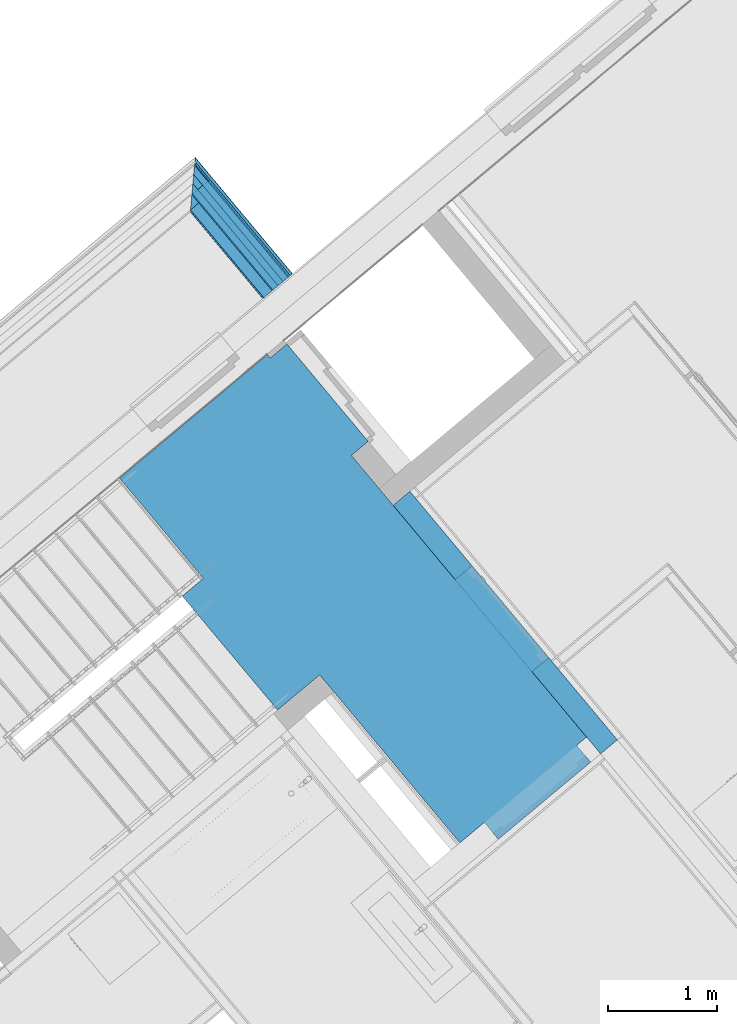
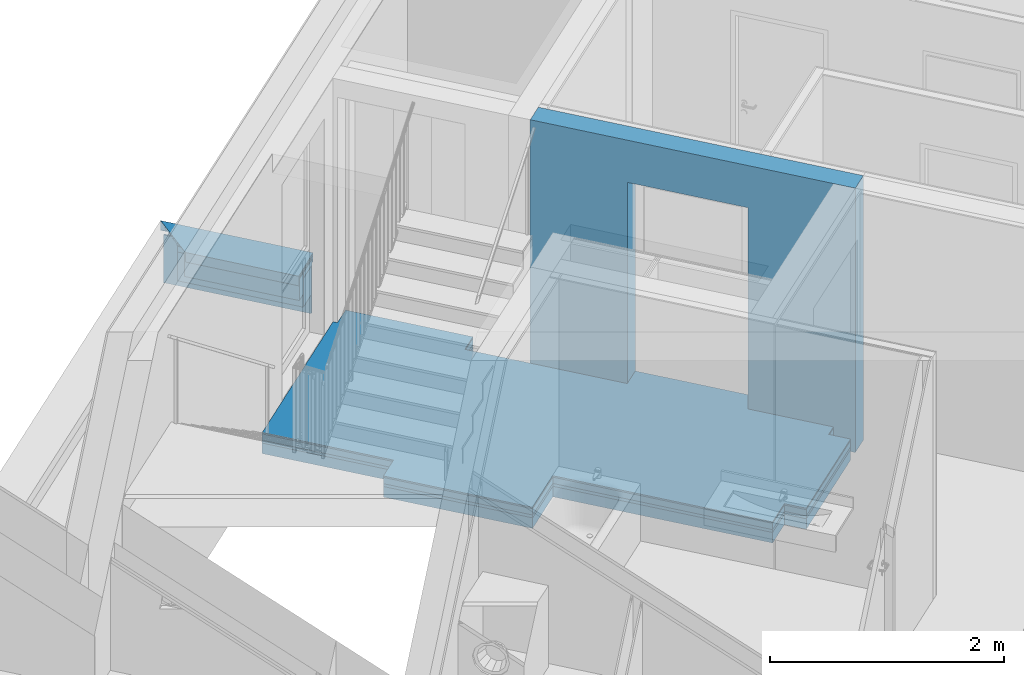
# One storey, part 32 of 50: 13 building element parts, 1 opening, 3 elements without a shape of their own.
"""IFC4 building model written with IfcOpenShell, lengths in metres."""

import ifcopenshell
import ifcopenshell.guid

model = None  # the IFC model being written
_history = None  # IfcOwnerHistory: only IFC2X3 demands one
_inside = {}  # id of a spatial element -> (the spatial element, [elements in it])
_under = {}  # id of a project, library or spatial element -> (it, [spatial elements below it])
_declared = {}  # id of a project -> (the project, [libraries it declares])
_typed = {}  # id of a type object -> (the type object, [elements of that type])
_made_of = {}  # id of a material, layer set ... -> (it, [elements and type objects made of it])


def new_model(schema):
    """Start an empty IFC model of exactly this schema.

    Asked for "IFC4X3", IfcOpenShell would pick the latest addendum, in which some entities
    have other attributes; the version numbers below select the first issue.
    IFC2X3 requires an IfcOwnerHistory on every rooted entity: one is made here for all.
    """
    global model, _history
    if schema == "IFC4X3":
        model = ifcopenshell.file(schema_version=(4, 3, 0, 0))
    else:
        model = ifcopenshell.file(schema=schema)
    _inside.clear()
    _under.clear()
    _declared.clear()
    _typed.clear()
    _made_of.clear()
    _history = None
    if model.schema == "IFC2X3":
        org = make("IfcOrganization", Name="unknown")
        user = make(
            "IfcPersonAndOrganization",
            ThePerson=make("IfcPerson", FamilyName="unknown"),
            TheOrganization=org,
        )
        app = make(
            "IfcApplication",
            ApplicationDeveloper=org,
            Version="unknown",
            ApplicationFullName="unknown",
            ApplicationIdentifier="unknown",
        )
        _history = make(
            "IfcOwnerHistory",
            OwningUser=user,
            OwningApplication=app,
            ChangeAction="ADDED",
            CreationDate=0,
        )
    return model


def make(cls, **values):
    """One entity of the class cls with the attributes given. An attribute that is None is left unset."""
    return model.create_entity(
        cls, **{name: value for name, value in values.items() if value is not None}
    )


def entity(cls, *values):
    """Any entity or typed value of the class cls, its attributes in the order of the schema. None: left unset."""
    e = model.create_entity(cls)
    for i, value in enumerate(values):
        if value is not None:
            e[i] = value
    return e


def rooted(cls, **values):
    """An entity with a GlobalId (a new one), such as an element, a storey or a relation."""
    return make(cls, GlobalId=ifcopenshell.guid.new(), OwnerHistory=_history, **values)


def si_unit(unit_type, name, prefix=None):
    """IfcSIUnit, for example si_unit("LENGTHUNIT", "METRE", prefix="MILLI")."""
    return make("IfcSIUnit", UnitType=unit_type, Prefix=prefix, Name=name)


def converted_unit(unit_type, name, factor, base, dimensions=None, offset=None):
    """IfcConversionBasedUnit, such as the inch: factor (a typed value) times the base unit."""
    return make(
        "IfcConversionBasedUnit"
        if offset is None
        else "IfcConversionBasedUnitWithOffset",
        ConversionOffset=offset,
        Dimensions=None
        if dimensions is None
        else entity("IfcDimensionalExponents", *dimensions),
        UnitType=unit_type,
        Name=name,
        ConversionFactor=make(
            "IfcMeasureWithUnit", ValueComponent=factor, UnitComponent=base
        ),
    )


def derived_unit(unit_type, elements):
    """IfcDerivedUnit: a product of units, each with its exponent."""
    return make(
        "IfcDerivedUnit",
        Elements=[
            make("IfcDerivedUnitElement", Unit=unit, Exponent=power)
            for unit, power in elements
        ],
        UnitType=unit_type,
    )


def assignment(units):
    """IfcUnitAssignment: the units of a project."""
    return None if units is None else make("IfcUnitAssignment", Units=units)


def point(xyz):
    """IfcCartesianPoint."""
    return None if xyz is None else make("IfcCartesianPoint", Coordinates=xyz)


def direction(xyz):
    """IfcDirection."""
    return None if xyz is None else make("IfcDirection", DirectionRatios=xyz)


def frame(location, z_axis=None, x_axis=None):
    """IfcAxis2Placement3D, a coordinate frame: its origin and axes. An axis left out is left unset."""
    return make(
        "IfcAxis2Placement3D",
        Location=point(location),
        Axis=direction(z_axis),
        RefDirection=direction(x_axis),
    )


def origin_with_axes():
    """The frame at (0, 0, 0) with the z axis (0, 0, 1) and the x axis (1, 0, 0) written out."""
    return frame((0.0, 0.0, 0.0), z_axis=(0.0, 0.0, 1.0), x_axis=(1.0, 0.0, 0.0))


def place(relative_to, where):
    """IfcLocalPlacement: puts the frame where relative to a parent placement (None: the world)."""
    return make(
        "IfcLocalPlacement", PlacementRelTo=relative_to, RelativePlacement=where
    )


def context(
    kind, dimensions, precision=None, world=None, true_north=None, identifier=None
):
    """IfcGeometricRepresentationContext, for example the 3D "Model" context."""
    return make(
        "IfcGeometricRepresentationContext",
        ContextIdentifier=identifier,
        ContextType=kind,
        CoordinateSpaceDimension=dimensions,
        Precision=precision,
        WorldCoordinateSystem=world,
        TrueNorth=true_north,
    )


def subcontext(parent, identifier, kind, view, scale=None):
    """IfcGeometricRepresentationSubContext, for example "Body" below "Model"."""
    return make(
        "IfcGeometricRepresentationSubContext",
        ContextIdentifier=identifier,
        ContextType=kind,
        ParentContext=parent,
        TargetScale=scale,
        TargetView=view,
    )


def project(units=None, contexts=None):
    """IfcProject with its units and contexts."""
    return rooted(
        "IfcProject",
        Name="project",
        RepresentationContexts=contexts,
        UnitsInContext=assignment(units),
    )


def spatial(cls, under=None, at=None, **own):
    """A site, building, storey or space (cls), placed at a placement, below another one or the project."""
    s = rooted(cls, ObjectPlacement=at, **own)
    if under is not None:
        _under.setdefault(under.id(), (under, []))[1].append(s)
    return s


def point_list(points):
    """IfcCartesianPointList2D or 3D."""
    cls = (
        "IfcCartesianPointList2D" if len(points[0]) == 2 else "IfcCartesianPointList3D"
    )
    return make(cls, CoordList=points)


def polygons(points, faces, closed=None, point_numbers=None):
    """IfcPolygonalFaceSet: a face is its outer loop, then its inner loops; points numbered from 1."""
    made = []
    for loops in faces:
        if len(loops) == 1:
            made.append(make("IfcIndexedPolygonalFace", CoordIndex=loops[0]))
        else:
            made.append(
                make(
                    "IfcIndexedPolygonalFaceWithVoids",
                    CoordIndex=loops[0],
                    InnerCoordIndices=loops[1:],
                )
            )
    return make(
        "IfcPolygonalFaceSet",
        Coordinates=point_list(points),
        Closed=closed,
        Faces=made,
        PnIndex=point_numbers,
    )


def shape(context_of_items, identifier, shape_type, items):
    """IfcShapeRepresentation: the items that make up one representation, for example the "Body"."""
    return make(
        "IfcShapeRepresentation",
        ContextOfItems=context_of_items,
        RepresentationIdentifier=identifier,
        RepresentationType=shape_type,
        Items=items,
    )


def material(Name=None, Category=None):
    """IfcMaterial."""
    return make("IfcMaterial", Name=Name, Category=Category)


def made_of(thing, what):
    """Note that an element or type object is made of a material, layer set ...; save() writes the relation."""
    if what is not None:
        _made_of.setdefault(what.id(), (what, []))[1].append(thing)
    return thing


def type_object(cls, material=None, **own):
    """A type object (cls), such as IfcWallType, which elements share."""
    return made_of(rooted(cls, **own), material)


def element(
    cls,
    number,
    at=None,
    inside=None,
    cuts=None,
    type_object=None,
    material=None,
    context=None,
    identifier="Body",
    shape_type=None,
    held_by="IfcProductDefinitionShape",
    body=None,
    shapes=None,
    **own,
):
    """One element of the class cls, such as IfcWall. Its Tag is "e" and its number.

    at: its placement. inside: the storey or other place that contains it. cuts: it is an
    opening in that element (IfcRelVoidsElement). A single representation is given by context,
    identifier, shape_type and body (its items); several are given by shapes. held_by: the class
    of the entity that holds the representations. save() writes the other relations.
    """
    e = rooted(cls, Tag="e%d" % number, ObjectPlacement=at, **own)
    if body is not None:
        shapes = [shape(context, identifier, shape_type, body)]
    if shapes is not None:
        e.Representation = make(held_by, Representations=shapes)
    if inside is not None:
        _inside.setdefault(inside.id(), (inside, []))[1].append(e)
    if cuts is not None:
        rooted(
            "IfcRelVoidsElement", RelatingBuildingElement=cuts, RelatedOpeningElement=e
        )
    if type_object is not None:
        _typed.setdefault(type_object.id(), (type_object, []))[1].append(e)
    return made_of(e, material)


def aggregate(whole, parts):
    """IfcRelAggregates: a whole, such as a stair, and the parts it consists of."""
    return rooted("IfcRelAggregates", RelatingObject=whole, RelatedObjects=parts)


def save(model, path):
    """Write the relations noted so far, then the file.

    IfcRelAggregates (storeys below a building ...), IfcRelContainedInSpatialStructure (elements
    in a storey), IfcRelDefinesByType, IfcRelAssociatesMaterial and IfcRelDeclares: one each for
    every whole, place, type object, material and project.
    """
    for whole, parts in _under.values():
        aggregate(whole, parts)
    for where, things in _inside.values():
        rooted(
            "IfcRelContainedInSpatialStructure",
            RelatedElements=things,
            RelatingStructure=where,
        )
    for kind, things in _typed.values():
        rooted("IfcRelDefinesByType", RelatedObjects=things, RelatingType=kind)
    for what, things in _made_of.values():
        rooted("IfcRelAssociatesMaterial", RelatedObjects=things, RelatingMaterial=what)
    for by, libraries in _declared.values():
        rooted("IfcRelDeclares", RelatingContext=by, RelatedDefinitions=libraries)
    model.write(path)


model = new_model("IFC4")

# Units and contexts
model_context = context("Model", 3, precision=1e-05, world=origin_with_axes(), true_north=direction((0.0, 1.0)))
body_context = subcontext(model_context, "Body", "Model", "MODEL_VIEW")
ifc_project = project(units=[si_unit("LENGTHUNIT", "METRE"), si_unit("AREAUNIT", "SQUARE_METRE"), si_unit("VOLUMEUNIT", "CUBIC_METRE"), converted_unit("PLANEANGLEUNIT", "DEGREE", entity("IfcPlaneAngleMeasure", 0.0174532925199), si_unit("PLANEANGLEUNIT", "RADIAN"), dimensions=[0, 0, 0, 0, 0, 0, 0]), converted_unit("TIMEUNIT", "Year", entity("IfcTimeMeasure", 31556926.0), si_unit("TIMEUNIT", "SECOND"), dimensions=[0, 0, 1, 0, 0, 0, 0]), si_unit("MASSUNIT", "GRAM", prefix="KILO"), si_unit("THERMODYNAMICTEMPERATUREUNIT", "DEGREE_CELSIUS"), si_unit("LUMINOUSINTENSITYUNIT", "LUMEN"), si_unit("ENERGYUNIT", "JOULE", prefix="MEGA"), derived_unit("THERMALCONDUCTANCEUNIT", [(si_unit("POWERUNIT", "WATT"), 1), (si_unit("LENGTHUNIT", "METRE"), -1), (si_unit("THERMODYNAMICTEMPERATUREUNIT", "KELVIN"), -1)]), derived_unit("SPECIFICHEATCAPACITYUNIT", [(si_unit("ENERGYUNIT", "JOULE"), 1), (si_unit("MASSUNIT", "GRAM", prefix="KILO"), -1), (si_unit("THERMODYNAMICTEMPERATUREUNIT", "KELVIN"), -1)]), derived_unit("MASSDENSITYUNIT", [(si_unit("MASSUNIT", "GRAM", prefix="KILO"), 1), (si_unit("VOLUMEUNIT", "CUBIC_METRE"), -1)])], contexts=[model_context])

# Site, building, storey
site_placement = place(None, frame((-0.00153261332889, -0.00661245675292, 0.0), z_axis=(0.0, 0.0, 1.0), x_axis=(1.0, 0.0, 0.0)))
site = spatial("IfcSite", under=ifc_project, at=site_placement, Name="Site", CompositionType="ELEMENT")
building_placement = place(site_placement, origin_with_axes())
building = spatial("IfcBuilding", under=site, at=building_placement, Name="Building", CompositionType="ELEMENT")
storey_placement = place(building_placement, frame((0.0, 0.0, 2.74), z_axis=(0.0, 0.0, 1.0), x_axis=(1.0, 0.0, 0.0)))
storey = spatial("IfcBuildingStorey", under=building, at=storey_placement, Name="OG1", CompositionType="ELEMENT", Elevation=2.74)

# Wall, opening, building element part
wall_type_1 = type_object("IfcWallType", Name="LB 6,5 cm einfach Vorsatzschale + STB 265", PredefinedType="NOTDEFINED")
wall_1_placement = place(storey_placement, frame((3.23525110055, 22.2301615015, 0.0), z_axis=(0.0, 0.0, 1.0), x_axis=(-0.640845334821, 0.767670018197, 0.0)))
wall_1 = element("IfcWall", 1, at=wall_1_placement, inside=storey, type_object=wall_type_1, Name="Wand-003", PredefinedType="NOTDEFINED")
opening_placement = place(wall_1_placement, frame((1.52746867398, 0.0, 0.22), z_axis=(0.0, 0.0, 1.0), x_axis=(1.0, 0.0, 0.0)))
element("IfcOpeningElement", 2, at=opening_placement, cuts=wall_1, Name="Tür-001", context=body_context, identifier="Reference", shape_type="Tessellation", body=[
    polygons([(-0.55, -0.125, -0.22), (-0.55, -0.125, 2.1), (-0.55, 1.45785876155, 2.1), (-0.55, 1.45785876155, -0.22), (-0.55, -1.72285876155, -0.22), (-0.55, -1.72285876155, 2.1), (0.55, -0.125, 2.1), (0.55, 1.45785876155, 2.1), (0.55, 1.45785876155, -0.22), (0.55, -0.125, -0.22), (0.55, -1.72285876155, -0.22), (0.55, -1.72285876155, 2.1)], [[[1, 2, 3, 4]], [[2, 1, 5, 6]], [[2, 7, 8, 3]], [[8, 9, 4, 3]], [[10, 1, 4, 9]], [[1, 10, 11, 5]], [[6, 5, 11, 12]], [[7, 2, 6, 12]], [[7, 10, 9, 8]], [[10, 7, 12, 11]]], closed=True),
])
ifc_material_1 = material(Name="Stahlbeton Wand")
building_element_part_1_placement = place(wall_1_placement, origin_with_axes())
building_element_part_1 = element("IfcBuildingElementPart", 3, at=building_element_part_1_placement, material=ifc_material_1, Name="Stahlbeton Wand", PredefinedType="NOTDEFINED", context=body_context, shape_type="Tessellation", body=[
    polygons([(2.07746867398, -0.2, 2.32), (2.07746867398, -0.199999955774, 0.22), (2.07746867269, -0.199999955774, 0.0), (2.9613493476, -0.2, 0.0), (2.9613493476, -0.2, 2.76), (0.0, -0.2, 2.76), (0.0, -0.2, 0.0), (0.977468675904, -0.199999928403, 0.0), (0.977468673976, -0.199999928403, 0.22), (0.977468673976, -0.2, 2.32), (2.07746867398, -0.125, 2.32), (2.07746867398, -0.125, 0.22), (2.07746867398, 0.0, 0.22), (2.07746867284, 0.0, 0.0), (2.9613493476, 0.0, 0.0), (2.9613493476, 0.0, 2.76), (0.0, 0.0, 2.76), (0.0, 0.0, 0.0), (0.977468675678, 0.0, 0.0), (0.977468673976, -0.125, 0.22), (0.977468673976, 0.0, 0.22), (0.977468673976, -0.125, 2.32), (2.07746867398, 0.0, 2.32), (0.977468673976, 0.0, 2.32)], [[[1, 2, 3, 4, 5, 6, 7, 8, 9, 10]], [[2, 1, 11, 12]], [[2, 12, 13, 14, 3]], [[15, 4, 3, 14]], [[4, 15, 16, 5]], [[16, 17, 6, 5]], [[17, 18, 7, 6]], [[7, 18, 19, 8]], [[20, 9, 8, 19, 21]], [[10, 9, 20, 22]], [[1, 10, 22, 11]], [[12, 11, 23, 13]], [[14, 13, 23, 24, 21, 19, 18, 17, 16, 15]], [[22, 20, 21, 24]], [[11, 22, 24, 23]]], closed=True),
])
aggregate(wall_1, [building_element_part_1])

# Covering, building element parts
covering_type = type_object("IfcCoveringType", Name="DE 01 Decke Wohnung/Wohnung Fließen 220", PredefinedType="NOTDEFINED")
covering_placement = place(storey_placement, frame((0.186433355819, 25.8823468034, 0.22), z_axis=(0.0, 0.0, 1.0), x_axis=(1.0, 0.0, 0.0)))
covering = element("IfcCovering", 4, at=covering_placement, inside=storey, type_object=covering_type, Name="Decke-001", PredefinedType="NOTDEFINED")
ifc_material_2 = material(Name="Fliesen")
building_element_part_2_placement = place(covering_placement, origin_with_axes())
building_element_part_2 = element("IfcBuildingElementPart", 5, at=building_element_part_2_placement, material=ifc_material_2, Name="Fliesen", PredefinedType="NOTDEFINED", context=body_context, shape_type="Tessellation", body=[
    polygons([(0.0938673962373, -3.25162003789, -0.015), (0.286905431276, -3.09031781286, -0.015), (0.478971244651, -2.92982796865, -0.015), (0.478971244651, -2.92982796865, 0.0), (0.286905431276, -3.09031781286, 0.0), (0.0938673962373, -3.25162003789, 0.0), (-0.778128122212, -2.208157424, -0.015), (-0.584981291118, -2.04678108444, -0.015), (-1.35152231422, -1.12932957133, -0.015), (0.0, 0.0, -0.015), (0.0263065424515, -0.0315126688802, -0.015), (0.179840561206, 0.0966564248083, -0.015), (0.923221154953, -0.793840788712, -0.015), (0.769687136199, -0.922009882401, -0.015), (1.0228817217, -1.22531219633, -0.015), (1.15105080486, -1.37884621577, -0.015), (1.71748165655, -2.05737494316, -0.015), (1.87101560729, -1.92920584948, -0.015), (2.57594545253, -2.77364288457, -0.015), (2.42241150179, -2.90181197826, -0.015), (2.92064867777, -3.49865129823, -0.015), (2.82949713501, -3.57474389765, -0.015), (2.9576662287, -3.72827791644, -0.015), (2.11322919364, -4.43320776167, -0.015), (1.98506009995, -4.27967374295, -0.015), (1.76163589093, -4.4661866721, -0.015), (0.607213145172, -3.08330113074, -0.015), (0.607213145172, -3.08330113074, 0.0), (-0.778128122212, -2.208157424, 0.0), (1.76163589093, -4.4661866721, 0.0), (1.98506009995, -4.27967374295, 0.0), (2.11322919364, -4.43320776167, 0.0), (2.9576662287, -3.72827791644, 0.0), (2.82949713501, -3.57474389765, 0.0), (2.92064867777, -3.49865129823, 0.0), (2.42241150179, -2.90181197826, 0.0), (2.57594545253, -2.77364288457, 0.0), (1.87101560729, -1.92920584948, 0.0), (1.71748165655, -2.05737494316, 0.0), (1.15105080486, -1.37884621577, 0.0), (1.0228817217, -1.22531219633, 0.0), (0.769687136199, -0.922009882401, 0.0), (0.923221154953, -0.793840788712, 0.0), (0.179840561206, 0.0966564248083, 0.0), (0.0263065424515, -0.0315126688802, 0.0), (0.0, 0.0, 0.0), (-1.35152231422, -1.12932957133, 0.0), (-0.584981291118, -2.04678108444, 0.0)], [[[1, 2, 3, 4, 5, 6]], [[2, 1, 7, 8, 9, 10, 11, 12, 13, 14, 15, 16, 17, 18, 19, 20, 21, 22, 23, 24, 25, 26, 27, 3]], [[4, 3, 27, 28]], [[29, 6, 5, 4, 28, 30, 31, 32, 33, 34, 35, 36, 37, 38, 39, 40, 41, 42, 43, 44, 45, 46, 47, 48]], [[1, 6, 29, 7]], [[8, 7, 29, 48]], [[9, 8, 48, 47]], [[9, 47, 46, 10]], [[45, 11, 10, 46]], [[11, 45, 44, 12]], [[12, 44, 43, 13]], [[42, 14, 13, 43]], [[15, 14, 42, 41]], [[16, 15, 41, 40]], [[39, 17, 16, 40]], [[17, 39, 38, 18]], [[18, 38, 37, 19]], [[36, 20, 19, 37]], [[21, 20, 36, 35]], [[34, 22, 21, 35]], [[23, 22, 34, 33]], [[32, 24, 23, 33]], [[24, 32, 31, 25]], [[30, 26, 25, 31]], [[27, 26, 30, 28]]], closed=True),
])
ifc_material_3 = material(Name="Estrich")
building_element_part_3_placement = place(covering_placement, origin_with_axes())
building_element_part_3 = element("IfcBuildingElementPart", 6, at=building_element_part_3_placement, material=ifc_material_3, Name="Estrich", PredefinedType="NOTDEFINED", context=body_context, shape_type="Tessellation", body=[
    polygons([(0.0938673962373, -3.25162003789, -0.08), (0.286905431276, -3.09031781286, -0.08), (0.478971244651, -2.92982796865, -0.08), (0.478971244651, -2.92982796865, -0.015), (0.286905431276, -3.09031781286, -0.015), (0.0938673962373, -3.25162003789, -0.015), (-0.778128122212, -2.208157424, -0.08), (-0.584981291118, -2.04678108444, -0.08), (-1.35152231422, -1.12932957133, -0.08), (0.0, 0.0, -0.08), (0.0263065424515, -0.0315126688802, -0.08), (0.179840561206, 0.0966564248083, -0.08), (0.923221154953, -0.793840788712, -0.08), (0.769687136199, -0.922009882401, -0.08), (1.0228817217, -1.22531219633, -0.08), (1.15105080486, -1.37884621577, -0.08), (1.71748165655, -2.05737494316, -0.08), (1.87101560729, -1.92920584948, -0.08), (2.57594545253, -2.77364288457, -0.08), (2.42241150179, -2.90181197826, -0.08), (2.92064867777, -3.49865129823, -0.08), (2.82949713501, -3.57474389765, -0.08), (2.9576662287, -3.72827791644, -0.08), (2.11322919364, -4.43320776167, -0.08), (1.98506009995, -4.27967374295, -0.08), (1.76163589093, -4.4661866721, -0.08), (0.607213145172, -3.08330113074, -0.08), (0.607213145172, -3.08330113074, -0.015), (1.76163589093, -4.4661866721, -0.015), (1.98506009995, -4.27967374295, -0.015), (2.11322919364, -4.43320776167, -0.015), (2.9576662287, -3.72827791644, -0.015), (2.82949713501, -3.57474389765, -0.015), (2.92064867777, -3.49865129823, -0.015), (2.42241150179, -2.90181197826, -0.015), (2.57594545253, -2.77364288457, -0.015), (1.87101560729, -1.92920584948, -0.015), (1.71748165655, -2.05737494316, -0.015), (1.15105081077, -1.37884621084, -0.015), (1.02288172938, -1.22531218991, -0.015), (0.769687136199, -0.922009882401, -0.015), (0.923221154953, -0.793840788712, -0.015), (0.179840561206, 0.0966564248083, -0.015), (0.0263065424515, -0.0315126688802, -0.015), (0.0, 0.0, -0.015), (-1.35152231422, -1.12932957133, -0.015), (-0.584981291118, -2.04678108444, -0.015), (-0.778128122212, -2.208157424, -0.015)], [[[1, 2, 3, 4, 5, 6]], [[2, 1, 7, 8, 9, 10, 11, 12, 13, 14, 15, 16, 17, 18, 19, 20, 21, 22, 23, 24, 25, 26, 27, 3]], [[4, 3, 27, 28]], [[6, 5, 4, 28, 29, 30, 31, 32, 33, 34, 35, 36, 37, 38, 39, 40, 41, 42, 43, 44, 45, 46, 47, 48]], [[48, 7, 1, 6]], [[7, 48, 47, 8]], [[9, 8, 47, 46]], [[45, 10, 9, 46]], [[10, 45, 44, 11]], [[11, 44, 43, 12]], [[12, 43, 42, 13]], [[41, 14, 13, 42]], [[15, 14, 41, 40]], [[16, 15, 40, 39]], [[38, 17, 16, 39]], [[18, 17, 38, 37]], [[18, 37, 36, 19]], [[35, 20, 19, 36]], [[21, 20, 35, 34]], [[33, 22, 21, 34]], [[23, 22, 33, 32]], [[31, 24, 23, 32]], [[24, 31, 30, 25]], [[29, 26, 25, 30]], [[27, 26, 29, 28]]], closed=True),
])
ifc_material_4 = material(Name="Trittschalldämmung")
building_element_part_4_placement = place(covering_placement, origin_with_axes())
building_element_part_4 = element("IfcBuildingElementPart", 7, at=building_element_part_4_placement, material=ifc_material_4, Name="Trittschalldämmung", PredefinedType="NOTDEFINED", context=body_context, shape_type="Tessellation", body=[
    polygons([(0.0938673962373, -3.25162003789, -0.11), (0.286905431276, -3.09031781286, -0.11), (0.478971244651, -2.92982796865, -0.11), (0.478971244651, -2.92982796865, -0.08), (0.286905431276, -3.09031781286, -0.08), (0.0938673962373, -3.25162003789, -0.08), (-0.778128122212, -2.208157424, -0.11), (-0.584981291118, -2.04678108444, -0.11), (-1.35152231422, -1.12932957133, -0.11), (0.0, 0.0, -0.11), (0.0263065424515, -0.0315126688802, -0.11), (0.179840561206, 0.0966564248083, -0.11), (0.923221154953, -0.793840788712, -0.11), (0.769687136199, -0.922009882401, -0.11), (1.0228817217, -1.22531219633, -0.11), (1.15105080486, -1.37884621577, -0.11), (1.71748165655, -2.05737494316, -0.11), (1.87101560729, -1.92920584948, -0.11), (2.57594545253, -2.77364288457, -0.11), (2.42241150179, -2.90181197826, -0.11), (2.92064867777, -3.49865129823, -0.11), (2.82949713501, -3.57474389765, -0.11), (2.9576662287, -3.72827791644, -0.11), (2.11322919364, -4.43320776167, -0.11), (1.98506009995, -4.27967374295, -0.11), (1.76163589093, -4.4661866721, -0.11), (0.607213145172, -3.08330113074, -0.11), (0.607213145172, -3.08330113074, -0.08), (1.76163589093, -4.4661866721, -0.08), (1.98506009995, -4.27967374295, -0.08), (2.11322919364, -4.43320776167, -0.08), (2.9576662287, -3.72827791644, -0.08), (2.82949713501, -3.57474389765, -0.08), (2.92064867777, -3.49865129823, -0.08), (2.42241150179, -2.90181197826, -0.08), (2.57594545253, -2.77364288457, -0.08), (1.87101560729, -1.92920584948, -0.08), (1.71748165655, -2.05737494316, -0.08), (1.15105081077, -1.37884621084, -0.08), (1.02288172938, -1.22531218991, -0.08), (0.769687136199, -0.922009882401, -0.08), (0.923221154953, -0.793840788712, -0.08), (0.179840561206, 0.0966564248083, -0.08), (0.0263065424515, -0.0315126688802, -0.08), (0.0, 0.0, -0.08), (-1.35152231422, -1.12932957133, -0.08), (-0.584981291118, -2.04678108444, -0.08), (-0.778128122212, -2.208157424, -0.08)], [[[1, 2, 3, 4, 5, 6]], [[2, 1, 7, 8, 9, 10, 11, 12, 13, 14, 15, 16, 17, 18, 19, 20, 21, 22, 23, 24, 25, 26, 27, 3]], [[4, 3, 27, 28]], [[6, 5, 4, 28, 29, 30, 31, 32, 33, 34, 35, 36, 37, 38, 39, 40, 41, 42, 43, 44, 45, 46, 47, 48]], [[48, 7, 1, 6]], [[7, 48, 47, 8]], [[9, 8, 47, 46]], [[45, 10, 9, 46]], [[10, 45, 44, 11]], [[11, 44, 43, 12]], [[12, 43, 42, 13]], [[41, 14, 13, 42]], [[15, 14, 41, 40]], [[16, 15, 40, 39]], [[38, 17, 16, 39]], [[18, 17, 38, 37]], [[18, 37, 36, 19]], [[35, 20, 19, 36]], [[21, 20, 35, 34]], [[33, 22, 21, 34]], [[23, 22, 33, 32]], [[31, 24, 23, 32]], [[24, 31, 30, 25]], [[29, 26, 25, 30]], [[27, 26, 29, 28]]], closed=True),
])
ifc_material_5 = material(Name="Schüttung")
building_element_part_5_placement = place(covering_placement, origin_with_axes())
building_element_part_5 = element("IfcBuildingElementPart", 8, at=building_element_part_5_placement, material=ifc_material_5, Name="Schüttung", PredefinedType="NOTDEFINED", context=body_context, shape_type="Tessellation", body=[
    polygons([(0.0938673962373, -3.25162003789, -0.22), (0.0938673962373, -3.25162003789, -0.11), (-0.778128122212, -2.208157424, -0.11), (-0.778128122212, -2.208157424, -0.22), (0.286905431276, -3.09031781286, -0.22), (0.478971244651, -2.92982796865, -0.22), (0.478971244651, -2.92982796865, -0.11), (0.286905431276, -3.09031781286, -0.11), (0.607213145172, -3.08330113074, -0.11), (1.76163589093, -4.4661866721, -0.11), (1.98506009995, -4.27967374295, -0.11), (2.11322919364, -4.43320776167, -0.11), (2.9576662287, -3.72827791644, -0.11), (2.82949713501, -3.57474389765, -0.11), (2.92064867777, -3.49865129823, -0.11), (2.42241150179, -2.90181197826, -0.11), (2.57594545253, -2.77364288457, -0.11), (1.87101560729, -1.92920584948, -0.11), (1.71748165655, -2.05737494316, -0.11), (1.15105081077, -1.37884621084, -0.11), (1.02288172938, -1.22531218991, -0.11), (0.769687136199, -0.922009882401, -0.11), (0.923221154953, -0.793840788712, -0.11), (0.179840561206, 0.0966564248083, -0.11), (0.0263065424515, -0.0315126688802, -0.11), (0.0, 0.0, -0.11), (-1.35152231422, -1.12932957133, -0.11), (-0.584981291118, -2.04678108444, -0.11), (-0.584981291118, -2.04678108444, -0.22), (-1.35152231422, -1.12932957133, -0.22), (0.0, 0.0, -0.22), (0.0263065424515, -0.0315126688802, -0.22), (0.179840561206, 0.0966564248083, -0.22), (0.923221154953, -0.793840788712, -0.22), (0.769687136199, -0.922009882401, -0.22), (1.02288172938, -1.22531218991, -0.22), (1.15105081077, -1.37884621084, -0.22), (1.71748165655, -2.05737494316, -0.22), (1.87101560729, -1.92920584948, -0.22), (2.57594545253, -2.77364288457, -0.22), (2.42241150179, -2.90181197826, -0.22), (2.92064867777, -3.49865129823, -0.22), (2.82949713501, -3.57474389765, -0.22), (2.9576662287, -3.72827791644, -0.22), (2.11322919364, -4.43320776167, -0.22), (1.98506009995, -4.27967374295, -0.22), (1.76163589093, -4.4661866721, -0.22), (0.607213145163, -3.08330113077, -0.22)], [[[1, 2, 3, 4]], [[1, 5, 6, 7, 8, 2]], [[2, 8, 7, 9, 10, 11, 12, 13, 14, 15, 16, 17, 18, 19, 20, 21, 22, 23, 24, 25, 26, 27, 28, 3]], [[29, 4, 3, 28]], [[5, 1, 4, 29, 30, 31, 32, 33, 34, 35, 36, 37, 38, 39, 40, 41, 42, 43, 44, 45, 46, 47, 48, 6]], [[7, 6, 48, 9]], [[48, 47, 10, 9]], [[47, 46, 11, 10]], [[46, 45, 12, 11]], [[12, 45, 44, 13]], [[44, 43, 14, 13]], [[14, 43, 42, 15]], [[42, 41, 16, 15]], [[41, 40, 17, 16]], [[39, 18, 17, 40]], [[39, 38, 19, 18]], [[19, 38, 37, 20]], [[37, 36, 21, 20]], [[36, 35, 22, 21]], [[22, 35, 34, 23]], [[33, 24, 23, 34]], [[32, 25, 24, 33]], [[25, 32, 31, 26]], [[31, 30, 27, 26]], [[30, 29, 28, 27]]], closed=True),
])
aggregate(covering, [building_element_part_2, building_element_part_3, building_element_part_4, building_element_part_5])

# Wall, building element parts
wall_type_2 = type_object("IfcWallType", Name="Bauteil - Attika Balkon 356 x 610", PredefinedType="NOTDEFINED")
wall_2_placement = place(storey_placement, frame((0.23116865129, 26.46705483, -0.2), z_axis=(0.0, 0.0, 1.0), x_axis=(-0.64122328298, 0.76735435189, 0.0)))
wall_2 = element("IfcWall", 9, at=wall_2_placement, inside=storey, type_object=wall_type_2, Name="Wand-002", PredefinedType="NOTDEFINED")
ifc_material_6 = material(Name="Stahl")
building_element_part_6_placement = place(wall_2_placement, origin_with_axes())
building_element_part_6 = element("IfcBuildingElementPart", 10, at=building_element_part_6_placement, material=ifc_material_6, Name="Stahl", PredefinedType="NOTDEFINED", context=body_context, shape_type="Tessellation", body=[
    polygons([(1.03284050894, 0.113600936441, 0.498915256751), (1.03284050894, 0.113600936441, 0.499999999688), (1.03284048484, 0.112247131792, 0.499999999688), (1.03284048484, 0.112247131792, 0.498915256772), (1.03284050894, 0.113600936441, 0.497561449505), (0.0, 0.113600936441, 0.497561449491), (0.0, 0.113600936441, 0.597151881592), (1.03284050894, 0.113600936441, 0.597151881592), (1.03284050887, 0.113600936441, 0.595846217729), (1.03284050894, 0.113600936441, 0.586106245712), (1.03284050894, 0.113600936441, 0.584015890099), (1.03284050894, 0.113600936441, 0.581921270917), (1.03284050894, 0.113600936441, 0.57982217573), (1.03284050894, 0.113600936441, 0.575576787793), (1.03284050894, 0.113600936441, 0.559999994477), (1.03284050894, 0.113600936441, 0.519273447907), (1.03284050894, 0.113600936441, 0.511410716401), (1.03284050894, 0.113600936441, 0.509099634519), (1.03284050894, 0.113600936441, 0.506731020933), (1.03284048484, 0.112247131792, 0.506731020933), (1.03284048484, 0.112247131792, 0.509099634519), (1.03284048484, 0.112247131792, 0.511410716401), (1.03284048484, 0.112247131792, 0.519273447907), (1.03284048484, 0.112247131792, 0.559999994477), (1.03284048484, 0.112247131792, 0.575576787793), (1.03284048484, 0.112247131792, 0.57982217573), (1.03284048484, 0.112247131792, 0.581921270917), (1.03284048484, 0.112247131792, 0.584015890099), (1.03284048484, 0.112247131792, 0.586106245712), (1.03284048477, 0.112247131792, 0.595846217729), (0.0, 0.112247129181, 0.595846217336), (0.0, 0.112247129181, 0.498915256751), (1.03284045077, 0.110332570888, 0.498915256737), (1.03284047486, 0.11168637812, 0.497561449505), (1.03379777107, 0.112643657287, 0.496604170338), (0.0, 0.112643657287, 0.496604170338), (0.0, 0.103427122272, 0.505820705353), (0.0, 0.104431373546, 0.506731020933), (0.0, -0.23927649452, 0.608570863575), (0.0, -0.24135992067, 0.60865214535), (0.0, -0.241353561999, 0.511410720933), (0.0, -0.233490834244, 0.519273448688), (0.0, -0.232580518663, 0.518269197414), (0.0, -0.241750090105, 0.509099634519), (0.0, -0.242707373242, 0.510056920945), (0.0, -0.242707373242, 0.610055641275), (1.38914247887, -0.242707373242, 0.610055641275), (1.35038871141, -0.203952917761, 0.608652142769), (1.34814440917, -0.201708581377, 0.608570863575), (1.03283984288, 0.076177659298, 0.597151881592), (1.34814374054, -0.23927649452, 0.608570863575), (1.03419429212, 0.112247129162, 0.498915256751), (1.04200990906, 0.104431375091, 0.506731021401), (1.03527901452, 0.111162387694, 0.499999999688), (1.03419425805, 0.110332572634, 0.498915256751), (1.03527898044, 0.109247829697, 0.499999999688), (1.04109957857, 0.103427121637, 0.505820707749), (1.35038804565, -0.24135985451, 0.608652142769), (1.38778868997, -0.241353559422, 0.511410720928), (1.38587413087, -0.241353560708, 0.511410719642), (1.38779504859, -0.241359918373, 0.608652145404), (1.38779504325, -0.241359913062, 0.608570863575), (1.38779421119, -0.24135908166, 0.595846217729), (1.3877935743, -0.24135844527, 0.586106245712), (1.38779343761, -0.24135830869, 0.584015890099), (1.38779330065, -0.241358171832, 0.581921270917), (1.38779316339, -0.241358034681, 0.57982217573), (1.38779288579, -0.241357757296, 0.575576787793), (1.38779186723, -0.241356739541, 0.559999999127), (1.38778920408, -0.241354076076, 0.519273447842), (1.37901576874, -0.234495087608, 0.518269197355), (1.37992610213, -0.233490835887, 0.519273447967), (1.37901580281, -0.232580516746, 0.518269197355), (1.38587416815, -0.239439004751, 0.511410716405), (1.38818521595, -0.241750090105, 0.509099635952), (1.38722790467, -0.242707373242, 0.510056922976), (1.38587411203, -0.242707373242, 0.511410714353), (1.38778866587, -0.242707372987, 0.511410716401), (1.38778918, -0.242707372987, 0.519273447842), (1.38779184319, -0.242707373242, 0.559999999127), (1.38779286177, -0.242707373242, 0.575576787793), (1.38779313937, -0.242707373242, 0.57982217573), (1.38779327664, -0.242707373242, 0.581921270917), (1.3877934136, -0.242707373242, 0.584015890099), (1.38779355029, -0.242707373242, 0.586106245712), (1.3877941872, -0.242707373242, 0.595846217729), (1.38779501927, -0.242707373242, 0.608570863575), (1.38779502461, -0.242707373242, 0.60865214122), (1.35038802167, -0.242707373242, 0.608652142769)], [[[1, 2, 3, 4]], [[2, 1, 5, 6, 7, 8, 9, 10, 11, 12, 13, 14, 15, 16, 17, 18, 19]], [[2, 19, 20, 3]], [[4, 3, 20, 21, 22, 23, 24, 25, 26, 27, 28, 29, 30, 31, 32]], [[5, 1, 4, 33, 34]], [[5, 35, 36, 6]], [[6, 36, 37, 38, 32, 31, 39, 40, 41, 42, 43, 44, 45, 46, 7]], [[8, 7, 46, 47, 48, 49]], [[9, 8, 50, 30]], [[10, 9, 30, 29]], [[11, 10, 29, 28]], [[12, 11, 28, 27]], [[13, 12, 27, 26]], [[14, 13, 26, 25]], [[15, 14, 25, 24]], [[16, 15, 24, 23]], [[17, 16, 23, 22]], [[18, 17, 22, 21]], [[19, 18, 21, 20]], [[30, 50, 51, 39, 31]], [[52, 4, 32, 38, 53, 54]], [[4, 52, 55, 33]], [[35, 34, 33, 55, 56, 57, 37, 36]], [[35, 5, 34]], [[57, 53, 38, 37]], [[51, 58, 40, 39]], [[59, 60, 41, 40, 58, 61, 62, 63, 64, 65, 66, 67, 68, 69, 70]], [[71, 72, 42, 41, 60]], [[73, 43, 42, 72]], [[73, 74, 75, 44, 43]], [[75, 76, 45, 44]], [[76, 77, 78, 79, 80, 81, 82, 83, 84, 85, 86, 87, 88, 89, 47, 46, 45]], [[58, 48, 47, 89]], [[49, 48, 58, 51]], [[50, 8, 49, 51]], [[54, 53, 57, 56]], [[52, 54, 56, 55]], [[60, 59, 78, 77]], [[61, 58, 89, 88]], [[62, 61, 88, 87]], [[63, 62, 87, 86]], [[64, 63, 86, 85]], [[65, 64, 85, 84]], [[83, 66, 65, 84]], [[67, 66, 83, 82]], [[68, 67, 82, 81]], [[69, 68, 81, 80]], [[70, 69, 80, 79]], [[59, 70, 79, 78]], [[71, 73, 72]], [[74, 73, 71, 60]], [[74, 60, 77, 76, 75]]], closed=True),
])
ifc_material_7 = material(Name="Holzwerkstoff")
building_element_part_7_placement = place(wall_2_placement, origin_with_axes())
building_element_part_7 = element("IfcBuildingElementPart", 11, at=building_element_part_7_placement, material=ifc_material_7, Name="Holzwerkstoff", PredefinedType="NOTDEFINED", context=body_context, shape_type="Tessellation", body=[
    polygons([(1.03490210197, 0.111539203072, 0.575576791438), (1.03475385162, 0.111687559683, 0.579822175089), (1.03475168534, -0.0100326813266, 0.579822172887), (1.03460740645, 0.11183400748, 0.584015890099), (1.03468055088, 0.111760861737, 0.581921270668), (0.0, 0.111539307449, 0.575576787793), (0.0, 0.112247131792, 0.5958462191), (1.03419428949, 0.112247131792, 0.5958462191), (1.0345344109, 0.111907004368, 0.586106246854), (1.0346773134, -0.0701429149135, 0.581921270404), (0.0, -0.0100326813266, 0.579822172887), (1.0346031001, -0.130124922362, 0.584015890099), (0.0, -0.0701429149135, 0.581921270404), (0.0, -0.13012497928, 0.584015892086), (0.0, -0.189984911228, 0.586106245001), (0.0, -0.23999998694, 0.587852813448), (0.0, -0.23927649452, 0.608570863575), (1.38571166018, -0.239276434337, 0.608570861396), (1.03418802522, -0.239720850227, 0.5958462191), (1.03446715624, -0.23999998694, 0.587852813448), (1.03452903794, -0.189984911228, 0.586106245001)], [[[1, 2, 3]], [[4, 5, 2, 1, 6, 7, 8, 9]], [[2, 5, 10, 3]], [[1, 3, 11, 6]], [[5, 4, 12, 10]], [[7, 6, 11, 13, 14, 15, 16, 17]], [[18, 8, 7, 17]], [[9, 8, 19, 20, 21]], [[4, 9, 21, 12]], [[3, 10, 13, 11]], [[10, 12, 14, 13]], [[12, 21, 15, 14]], [[21, 20, 16, 15]], [[19, 18, 17, 16, 20]], [[8, 18, 19]]], closed=True),
])
ifc_material_8 = material(Name="EPS 1")
building_element_part_8_placement = place(wall_2_placement, origin_with_axes())
building_element_part_8 = element("IfcBuildingElementPart", 12, at=building_element_part_8_placement, material=ifc_material_8, Name="EPS 1", PredefinedType="NOTDEFINED", context=body_context, shape_type="Tessellation", body=[
    polygons([(1.04643942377, -2.39911202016e-10, 0.519273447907), (1.04643942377, -2.39911202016e-10, 0.560000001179), (0.0, -2.39907649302e-10, 0.560000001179), (0.0, -2.39907649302e-10, 0.334999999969), (1.04643942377, -2.39911202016e-10, 0.334999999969), (1.04643942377, -2.39911202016e-10, 0.496604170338), (1.04643942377, -2.39911202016e-10, 0.498915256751), (1.04643942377, -2.39911202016e-10, 0.499999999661), (1.04643942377, -2.39911202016e-10, 0.506731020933), (1.04643942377, -2.39911202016e-10, 0.509099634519), (1.04643942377, -2.39911202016e-10, 0.511410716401), (1.04644120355, 0.0999999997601, 0.560000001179), (1.04644120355, 0.0999999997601, 0.519273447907), (0.0, 0.0999999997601, 0.560000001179), (0.0, 0.0999999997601, 0.334999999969), (1.04644120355, 0.0999999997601, 0.334999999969), (1.04644120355, 0.0999999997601, 0.496604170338), (1.04644120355, 0.0999999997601, 0.498915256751), (1.04644120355, 0.0999999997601, 0.499999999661), (1.04644120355, 0.0999999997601, 0.506731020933), (1.04644120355, 0.0999999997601, 0.509099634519), (1.04644120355, 0.0999999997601, 0.511410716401)], [[[1, 2, 3, 4, 5, 6, 7, 8, 9, 10, 11]], [[12, 2, 1, 13]], [[2, 12, 14, 3]], [[4, 3, 14, 15]], [[16, 5, 4, 15]], [[17, 6, 5, 16]], [[18, 7, 6, 17]], [[19, 8, 7, 18]], [[20, 9, 8, 19]], [[21, 10, 9, 20]], [[22, 11, 10, 21]], [[13, 1, 11, 22]], [[12, 13, 22, 21, 20, 19, 18, 17, 16, 15, 14]]], closed=True),
])
ifc_material_9 = material(Name="Vollholz")
building_element_part_9_placement = place(wall_2_placement, origin_with_axes())
building_element_part_9 = element("IfcBuildingElementPart", 13, at=building_element_part_9_placement, material=ifc_material_9, Name="Vollholz", PredefinedType="NOTDEFINED", context=body_context, shape_type="Tessellation", body=[
    polygons([(1.15647192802, -0.0100326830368, 0.579822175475), (1.15647085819, -0.0701429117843, 0.579822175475), (1.1564944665, -0.0701429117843, 0.575576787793), (1.15649553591, -0.0100562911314, 0.575576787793), (1.21658108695, -0.0701429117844, 0.581921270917), (0.0, -0.0701429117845, 0.581921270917), (0.0, -0.0701429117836, 0.560000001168), (1.15658108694, -0.0701429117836, 0.560000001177), (1.15658215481, -0.0101429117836, 0.560000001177), (0.0, -0.0101429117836, 0.560000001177), (0.0, -0.0100326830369, 0.579822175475)], [[[1, 2, 3, 4]], [[5, 2, 1]], [[2, 5, 6, 7, 8, 3]], [[9, 4, 3, 8]], [[1, 4, 9, 10, 11]], [[5, 1, 11, 6]], [[10, 7, 6, 11]], [[7, 10, 9, 8]]], closed=True),
])
ifc_material_10 = material(Name="Stahlbeton")
building_element_part_10_placement = place(wall_2_placement, origin_with_axes())
building_element_part_10 = element("IfcBuildingElementPart", 14, at=building_element_part_10_placement, material=ifc_material_10, Name="Stahlbeton", PredefinedType="NOTDEFINED", context=body_context, shape_type="Tessellation", body=[
    polygons([(1.14643586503, -0.19999996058, 0.498915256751), (1.14643586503, -0.19999996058, 0.500000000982), (0.0, -0.19999996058, 0.500000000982), (0.0, -0.19999996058, 0.2), (1.14643586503, -0.19999996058, 0.2), (1.14643586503, -0.19999996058, 0.334999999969), (1.14643586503, -0.19999996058, 0.496604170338), (1.1464394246, -1.05296749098e-09, 0.500000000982), (1.1464394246, -1.05296749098e-09, 0.498915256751), (0.0, -1.05297104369e-09, 0.500000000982), (0.0, -1.05297104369e-09, 0.2), (0.0, -1.05297104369e-09, 0.335000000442), (1.1464394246, -1.05296749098e-09, 0.2), (1.1464394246, -1.05296749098e-09, 0.334999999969), (1.1464394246, -1.05296749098e-09, 0.496604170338)], [[[1, 2, 3, 4, 5, 6, 7]], [[8, 2, 1, 9]], [[2, 8, 10, 3]], [[11, 4, 3, 10, 12]], [[13, 5, 4, 11]], [[14, 6, 5, 13]], [[15, 7, 6, 14]], [[9, 1, 7, 15]], [[8, 9, 15, 14, 12, 10]], [[14, 13, 11, 12]]], closed=True),
])
ifc_material_11 = material(Name="Brettschichtholz")
building_element_part_11_placement = place(wall_2_placement, origin_with_axes())
building_element_part_11 = element("IfcBuildingElementPart", 15, at=building_element_part_11_placement, material=ifc_material_11, Name="Brettschichtholz", PredefinedType="NOTDEFINED", context=body_context, shape_type="Tessellation", body=[
    polygons([(1.14643559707, -0.214999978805, 0.519273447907), (1.14643559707, -0.214999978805, 0.560000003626), (0.0, -0.214999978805, 0.560000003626), (0.0, -0.214999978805, 0.499999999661), (1.14643559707, -0.214999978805, 0.499999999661), (1.14643559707, -0.214999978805, 0.506731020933), (1.14643559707, -0.214999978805, 0.509099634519), (1.14643559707, -0.214999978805, 0.511410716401), (1.14643603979, -0.190124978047, 0.560000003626), (1.1464394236, 0.0, 0.519273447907), (1.1464394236, 0.0, 0.560000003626), (1.14643924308, -0.010142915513, 0.560000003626), (1.14643817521, -0.0701429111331, 0.560000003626), (1.14643710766, -0.130124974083, 0.560000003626), (0.0, -0.190124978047, 0.559999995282), (0.0, -0.130124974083, 0.559999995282), (0.0, -0.0701429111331, 0.559999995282), (0.0, -0.010142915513, 0.559999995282), (0.0, 0.0, 0.560000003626), (0.0, 0.0, 0.499999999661), (1.1464394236, 0.0, 0.499999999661), (1.1464394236, 0.0, 0.506731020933), (1.1464394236, 0.0, 0.509099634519), (1.1464394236, 0.0, 0.511410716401)], [[[1, 2, 3, 4, 5, 6, 7, 8]], [[9, 2, 1, 10, 11, 12, 13, 14]], [[2, 9, 15, 3]], [[4, 3, 15, 16, 17, 18, 19, 20]], [[21, 5, 4, 20]], [[22, 6, 5, 21]], [[23, 7, 6, 22]], [[24, 8, 7, 23]], [[10, 1, 8, 24]], [[11, 10, 24, 23, 22, 21, 20, 19]], [[12, 11, 19, 18]], [[13, 12, 18, 17]], [[14, 13, 17, 16]], [[9, 14, 16, 15]]], closed=True),
])
building_element_part_12_placement = place(wall_2_placement, origin_with_axes())
building_element_part_12 = element("IfcBuildingElementPart", 16, at=building_element_part_12_placement, material=ifc_material_9, Name="Vollholz", PredefinedType="NOTDEFINED", context=body_context, shape_type="Tessellation", body=[
    polygons([(1.27656208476, -0.130124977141, 0.584015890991), (1.27656101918, -0.189996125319, 0.584015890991), (1.27656101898, -0.190007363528, 0.581921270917), (1.27656208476, -0.130124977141, 0.581921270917), (1.33642095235, -0.189984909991, 0.586106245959), (0.0, -0.189984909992, 0.586106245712), (0.0, -0.190124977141, 0.560000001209), (1.27656101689, -0.190124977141, 0.560000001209), (1.27656101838, -0.190041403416, 0.575576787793), (1.27656101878, -0.190018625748, 0.57982217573), (1.27656208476, -0.130124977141, 0.57982217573), (1.27656208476, -0.130124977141, 0.560000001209), (0.0, -0.130124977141, 0.560000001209), (0.0, -0.130124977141, 0.584015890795), (1.27656208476, -0.130124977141, 0.575576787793)], [[[1, 2, 3, 4]], [[5, 2, 1]], [[2, 5, 6, 7, 8, 9, 10, 3]], [[3, 10, 11, 4]], [[12, 13, 14, 1, 4, 11, 15]], [[5, 1, 14, 6]], [[13, 7, 6, 14]], [[12, 8, 7, 13]], [[12, 15, 9, 8]], [[9, 15, 11, 10]]], closed=True),
])
ifc_material_12 = material(Name="Zementputz")
building_element_part_13_placement = place(wall_2_placement, origin_with_axes())
building_element_part_13 = element("IfcBuildingElementPart", 17, at=building_element_part_13_placement, material=ifc_material_12, Name="Zementputz", PredefinedType="NOTDEFINED", context=body_context, shape_type="Tessellation", body=[
    polygons([(1.34643556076, -0.214999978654, 0.498915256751), (1.34643556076, -0.214999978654, 0.500000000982), (0.0, -0.214999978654, 0.500000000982), (0.0, -0.214999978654, 0.0), (1.34643556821, -0.214999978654, 0.0), (1.34643556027, -0.214999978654, 0.2), (1.34643556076, -0.214999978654, 0.334999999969), (1.34643556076, -0.214999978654, 0.496604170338), (1.34643582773, -0.199999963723, 0.500000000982), (1.34643582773, -0.199999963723, 0.498915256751), (0.0, -0.199999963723, 0.500000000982), (0.0, -0.199999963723, 0.200000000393), (0.0, -0.199999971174, 0.0), (1.34643583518, -0.199999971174, 0.0), (1.34643582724, -0.199999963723, 0.2), (1.34643582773, -0.199999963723, 0.334999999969), (1.34643582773, -0.199999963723, 0.496604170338)], [[[1, 2, 3, 4, 5, 6, 7, 8]], [[9, 2, 1, 10]], [[2, 9, 11, 3]], [[4, 3, 11, 12, 13]], [[14, 5, 4, 13]], [[15, 6, 5, 14]], [[16, 7, 6, 15]], [[17, 8, 7, 16]], [[10, 1, 8, 17]], [[9, 10, 17, 16, 15, 12, 11]], [[15, 14, 13, 12]]], closed=True),
])
aggregate(wall_2, [building_element_part_6, building_element_part_7, building_element_part_8, building_element_part_9, building_element_part_10, building_element_part_11, building_element_part_12, building_element_part_13])

save(model, "model.ifc")
